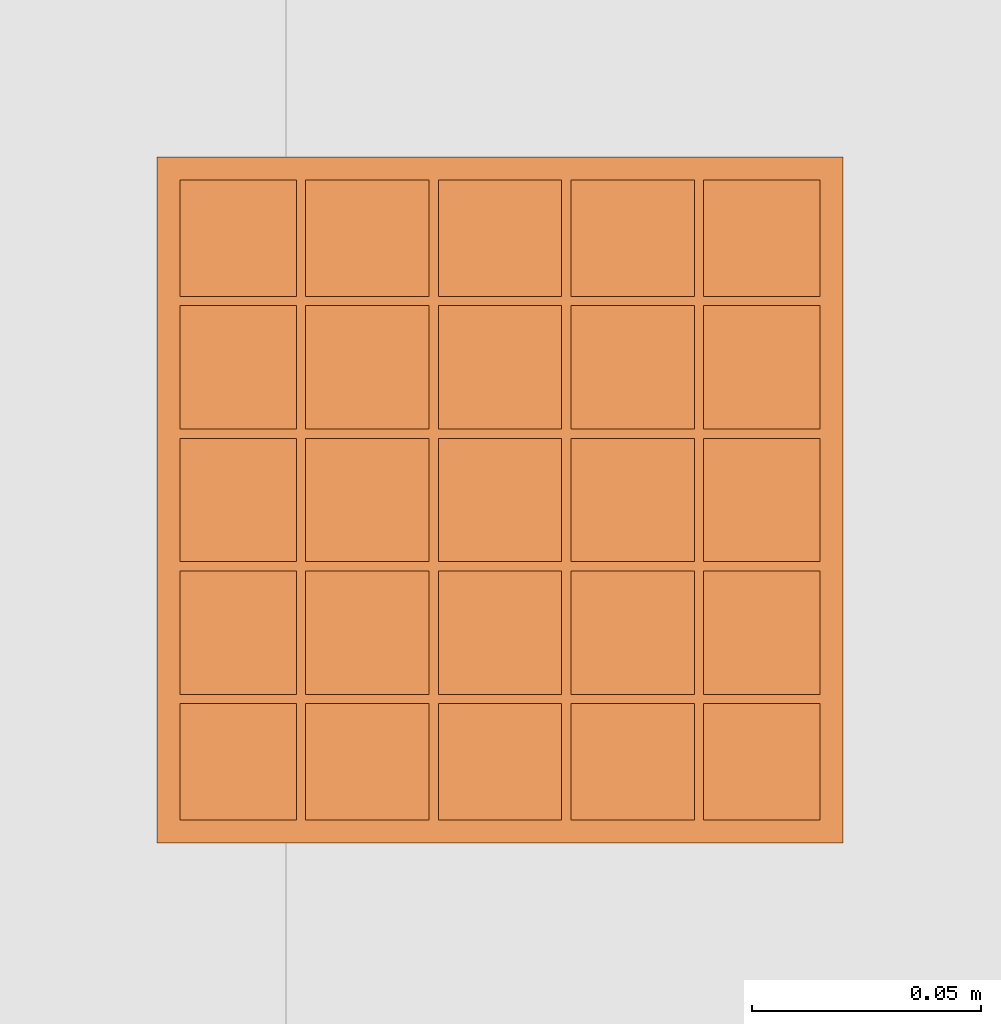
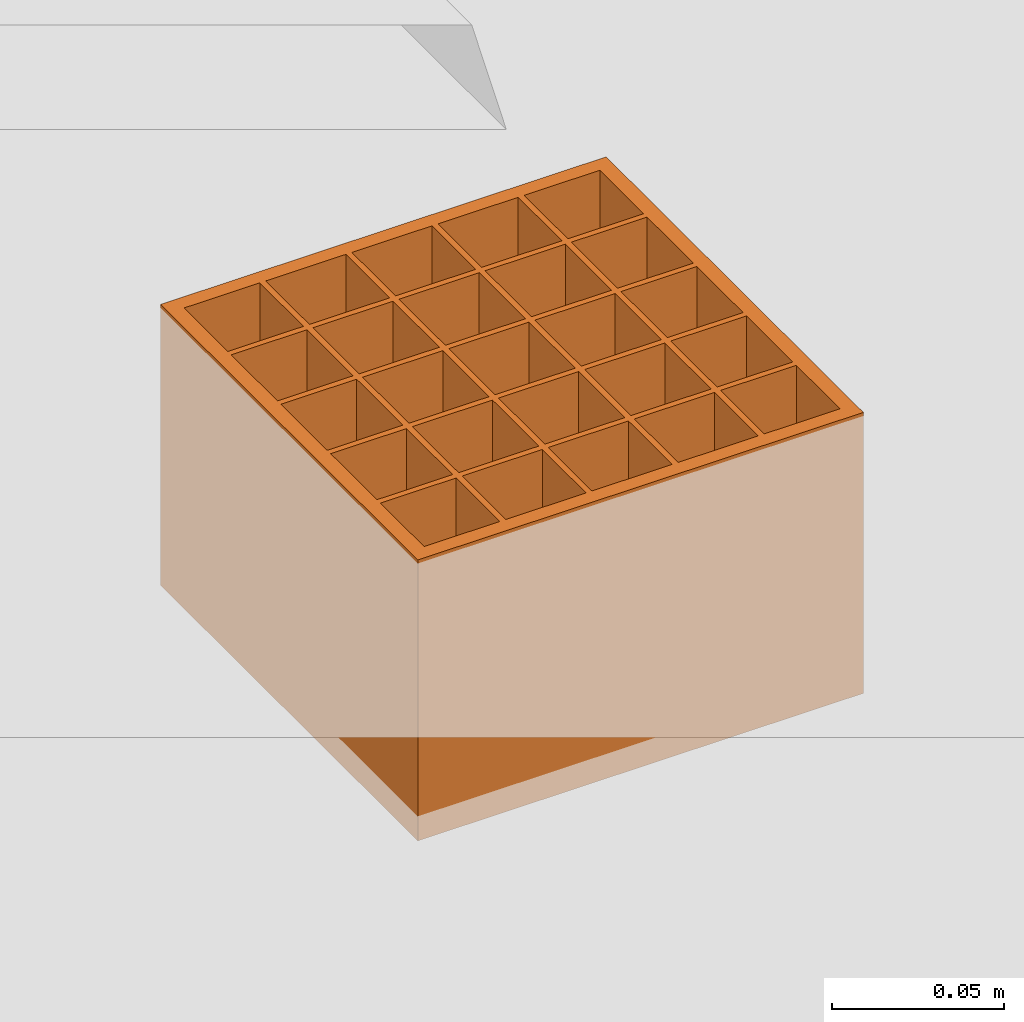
# One storey, part 85 of 100: 1 proxy.
"""IFC2X3 building model written with IfcOpenShell, lengths in millimetres."""

from ifc_helpers import new_model, entity, si_unit, converted_unit, derived_unit, money_unit, direction, frame, origin_with_axes, place, context, subcontext, project, spatial, faceted_brep, source, transform, mapped, type_object, element, save


model = new_model("IFC2X3")

# Units and contexts
model_context = context("Model", 3, precision=0.01, world=origin_with_axes(), true_north=direction((0.0, 1.0)))
body_context = subcontext(model_context, "Body", "Model", "MODEL_VIEW")
ifc_project = project(units=[si_unit("LENGTHUNIT", "METRE", prefix="MILLI"), si_unit("AREAUNIT", "SQUARE_METRE"), si_unit("VOLUMEUNIT", "CUBIC_METRE"), converted_unit("PLANEANGLEUNIT", "DEGREE", entity("IfcPlaneAngleMeasure", 0.0174532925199), si_unit("PLANEANGLEUNIT", "RADIAN"), dimensions=[0, 0, 0, 0, 0, 0, 0]), si_unit("SOLIDANGLEUNIT", "STERADIAN"), money_unit("EUR"), converted_unit("TIMEUNIT", "Year", entity("IfcTimeMeasure", 31556926.0), si_unit("TIMEUNIT", "SECOND"), dimensions=[0, 0, 1, 0, 0, 0, 0]), si_unit("MASSUNIT", "GRAM", prefix="KILO"), si_unit("THERMODYNAMICTEMPERATUREUNIT", "DEGREE_CELSIUS"), si_unit("LUMINOUSINTENSITYUNIT", "LUMEN"), si_unit("ENERGYUNIT", "JOULE", prefix="MEGA"), derived_unit("THERMALCONDUCTANCEUNIT", [(si_unit("POWERUNIT", "WATT"), 1), (si_unit("LENGTHUNIT", "METRE"), -1), (si_unit("THERMODYNAMICTEMPERATUREUNIT", "KELVIN"), -1)]), derived_unit("SPECIFICHEATCAPACITYUNIT", [(si_unit("ENERGYUNIT", "JOULE"), 1), (si_unit("MASSUNIT", "GRAM", prefix="KILO"), -1), (si_unit("THERMODYNAMICTEMPERATUREUNIT", "KELVIN"), -1)]), derived_unit("MASSDENSITYUNIT", [(si_unit("MASSUNIT", "GRAM", prefix="KILO"), 1), (si_unit("VOLUMEUNIT", "CUBIC_METRE"), -1)])], contexts=[model_context])

# Site, building, storey
site_placement = place(None, origin_with_axes())
site = spatial("IfcSite", under=ifc_project, at=site_placement, Name="Politse- ja Piirivalveameti ning Päästeameti ühishoone", CompositionType="ELEMENT")
building_placement = place(site_placement, origin_with_axes())
building = spatial("IfcBuilding", under=site, at=building_placement, Name="Politse- ja Piirivalveameti ning Päästeameti ühishoone", CompositionType="ELEMENT")
storey_placement = place(building_placement, frame((0.0, 0.0, 3800.0), z_axis=(0.0, 0.0, 1.0), x_axis=(1.0, 0.0, 0.0)))
storey = spatial("IfcBuildingStorey", under=building, at=storey_placement, Name="Teine korrus", CompositionType="ELEMENT", Elevation=3800.0)

# Proxy
building_element_proxy_type = type_object("IfcBuildingElementProxyType", Name="Grid 23", PredefinedType="NOTDEFINED")
shared_shape = source(origin_with_axes(), body_context, "Body", "Brep", [
    faceted_brep([(0.0, 0.0, 0.0), (5.0, 5.0, 0.0), (5.0, 5.0, 100.0), (0.0, 0.0, 100.0), (0.0, 150.0, 0.0), (5.0, 145.0, 0.0), (5.0, 119.5, 0.0), (5.0, 117.5, 0.0), (5.0, 90.5, 0.0), (5.0, 88.5, 0.0), (5.0, 61.5, 0.0), (5.0, 59.5, 0.0), (5.0, 32.5, 0.0), (5.0, 30.5, 0.0), (5.0, 30.5, 100.0), (5.0, 32.5, 100.0), (5.0, 59.5, 100.0), (5.0, 61.5, 100.0), (5.0, 88.5, 100.0), (5.0, 90.5, 100.0), (5.0, 117.5, 100.0), (5.0, 119.5, 100.0), (5.0, 145.0, 100.0), (0.0, 150.0, 100.0)], [[[0, 1, 2, 3]], [[0, 4, 5, 6, 7, 8, 9, 10, 11, 12, 13, 1]], [[1, 13, 14, 2]], [[3, 2, 14, 15, 16, 17, 18, 19, 20, 21, 22, 23]], [[4, 0, 3, 23]], [[5, 4, 23, 22]], [[6, 5, 22, 21]], [[7, 6, 21, 20]], [[8, 7, 20, 19]], [[9, 8, 19, 18]], [[10, 9, 18, 17]], [[11, 10, 17, 16]], [[12, 11, 16, 15]], [[13, 12, 15, 14]]]),
    faceted_brep([(150.0, 150.0, 0.0), (145.0, 145.0, 0.0), (145.0, 145.0, 100.0), (150.0, 150.0, 100.0), (150.0, 0.0, 0.0), (145.0, 5.0, 0.0), (145.0, 30.5, 0.0), (145.0, 32.5, 0.0), (145.0, 59.5, 0.0), (145.0, 61.5, 0.0), (145.0, 88.5, 0.0), (145.0, 90.5, 0.0), (145.0, 117.5, 0.0), (145.0, 119.5, 0.0), (145.0, 119.5, 100.0), (145.0, 117.5, 100.0), (145.0, 90.5, 100.0), (145.0, 88.5, 100.0), (145.0, 61.5, 100.0), (145.0, 59.5, 100.0), (145.0, 32.5, 100.0), (145.0, 30.5, 100.0), (145.0, 5.0, 100.0), (150.0, 0.0, 100.0)], [[[0, 1, 2, 3]], [[0, 4, 5, 6, 7, 8, 9, 10, 11, 12, 13, 1]], [[1, 13, 14, 2]], [[3, 2, 14, 15, 16, 17, 18, 19, 20, 21, 22, 23]], [[4, 0, 3, 23]], [[5, 4, 23, 22]], [[6, 5, 22, 21]], [[7, 6, 21, 20]], [[8, 7, 20, 19]], [[9, 8, 19, 18]], [[10, 9, 18, 17]], [[11, 10, 17, 16]], [[12, 11, 16, 15]], [[13, 12, 15, 14]]]),
    faceted_brep([(150.0, 0.0, 0.0), (145.0, 5.0, 0.0), (145.0, 5.0, 100.0), (150.0, 0.0, 100.0), (0.0, 0.0, 0.0), (5.0, 5.0, 0.0), (30.5, 5.0, 0.0), (32.5, 5.0, 0.0), (59.5, 5.0, 0.0), (61.5, 5.0, 0.0), (88.5, 5.0, 0.0), (90.5, 5.0, 0.0), (117.5, 5.0, 0.0), (119.5, 5.0, 0.0), (119.5, 5.0, 100.0), (117.5, 5.0, 100.0), (90.5, 5.0, 100.0), (88.5, 5.0, 100.0), (61.5, 5.0, 100.0), (59.5, 5.0, 100.0), (32.5, 5.0, 100.0), (30.5, 5.0, 100.0), (5.0, 5.0, 100.0), (0.0, 0.0, 100.0)], [[[0, 1, 2, 3]], [[0, 4, 5, 6, 7, 8, 9, 10, 11, 12, 13, 1]], [[1, 13, 14, 2]], [[3, 2, 14, 15, 16, 17, 18, 19, 20, 21, 22, 23]], [[4, 0, 3, 23]], [[5, 4, 23, 22]], [[6, 5, 22, 21]], [[7, 6, 21, 20]], [[8, 7, 20, 19]], [[9, 8, 19, 18]], [[10, 9, 18, 17]], [[11, 10, 17, 16]], [[12, 11, 16, 15]], [[13, 12, 15, 14]]]),
    faceted_brep([(0.0, 150.0, 0.0), (5.0, 145.0, 0.0), (5.0, 145.0, 100.0), (0.0, 150.0, 100.0), (150.0, 150.0, 0.0), (145.0, 145.0, 0.0), (119.5, 145.0, 0.0), (117.5, 145.0, 0.0), (90.5, 145.0, 0.0), (88.5, 145.0, 0.0), (61.5, 145.0, 0.0), (59.5, 145.0, 0.0), (32.5, 145.0, 0.0), (30.5, 145.0, 0.0), (30.5, 145.0, 100.0), (32.5, 145.0, 100.0), (59.5, 145.0, 100.0), (61.5, 145.0, 100.0), (88.5, 145.0, 100.0), (90.5, 145.0, 100.0), (117.5, 145.0, 100.0), (119.5, 145.0, 100.0), (145.0, 145.0, 100.0), (150.0, 150.0, 100.0)], [[[0, 1, 2, 3]], [[0, 4, 5, 6, 7, 8, 9, 10, 11, 12, 13, 1]], [[1, 13, 14, 2]], [[3, 2, 14, 15, 16, 17, 18, 19, 20, 21, 22, 23]], [[4, 0, 3, 23]], [[5, 4, 23, 22]], [[6, 5, 22, 21]], [[7, 6, 21, 20]], [[8, 7, 20, 19]], [[9, 8, 19, 18]], [[10, 9, 18, 17]], [[11, 10, 17, 16]], [[12, 11, 16, 15]], [[13, 12, 15, 14]]]),
    faceted_brep([(30.5, 5.0, 0.0), (32.5, 5.0, 0.0), (32.5, 5.0, 100.0), (30.5, 5.0, 100.0), (30.5, 30.5, 0.0), (30.5, 32.5, 0.0), (30.5, 59.5, 0.0), (30.5, 61.5, 0.0), (30.5, 88.5, 0.0), (30.5, 90.5, 0.0), (30.5, 117.5, 0.0), (30.5, 119.5, 0.0), (30.5, 145.0, 0.0), (32.5, 145.0, 0.0), (32.5, 119.5, 0.0), (32.5, 117.5, 0.0), (32.5, 90.5, 0.0), (32.5, 88.5, 0.0), (32.5, 61.5, 0.0), (32.5, 59.5, 0.0), (32.5, 32.5, 0.0), (32.5, 30.5, 0.0), (32.5, 30.5, 100.0), (32.5, 32.5, 100.0), (32.5, 59.5, 100.0), (32.5, 61.5, 100.0), (32.5, 88.5, 100.0), (32.5, 90.5, 100.0), (32.5, 117.5, 100.0), (32.5, 119.5, 100.0), (32.5, 145.0, 100.0), (30.5, 145.0, 100.0), (30.5, 119.5, 100.0), (30.5, 117.5, 100.0), (30.5, 90.5, 100.0), (30.5, 88.5, 100.0), (30.5, 61.5, 100.0), (30.5, 59.5, 100.0), (30.5, 32.5, 100.0), (30.5, 30.5, 100.0)], [[[0, 1, 2, 3]], [[0, 4, 5, 6, 7, 8, 9, 10, 11, 12, 13, 14, 15, 16, 17, 18, 19, 20, 21, 1]], [[1, 21, 22, 2]], [[3, 2, 22, 23, 24, 25, 26, 27, 28, 29, 30, 31, 32, 33, 34, 35, 36, 37, 38, 39]], [[4, 0, 3, 39]], [[5, 4, 39, 38]], [[6, 5, 38, 37]], [[7, 6, 37, 36]], [[8, 7, 36, 35]], [[9, 8, 35, 34]], [[10, 9, 34, 33]], [[11, 10, 33, 32]], [[12, 11, 32, 31]], [[13, 12, 31, 30]], [[14, 13, 30, 29]], [[15, 14, 29, 28]], [[16, 15, 28, 27]], [[17, 16, 27, 26]], [[18, 17, 26, 25]], [[19, 18, 25, 24]], [[20, 19, 24, 23]], [[21, 20, 23, 22]]]),
    faceted_brep([(59.5, 5.0, 0.0), (61.5, 5.0, 0.0), (61.5, 5.0, 100.0), (59.5, 5.0, 100.0), (59.5, 30.5, 0.0), (59.5, 32.5, 0.0), (59.5, 59.5, 0.0), (59.5, 61.5, 0.0), (59.5, 88.5, 0.0), (59.5, 90.5, 0.0), (59.5, 117.5, 0.0), (59.5, 119.5, 0.0), (59.5, 145.0, 0.0), (61.5, 145.0, 0.0), (61.5, 119.5, 0.0), (61.5, 117.5, 0.0), (61.5, 90.5, 0.0), (61.5, 88.5, 0.0), (61.5, 61.5, 0.0), (61.5, 59.5, 0.0), (61.5, 32.5, 0.0), (61.5, 30.5, 0.0), (61.5, 30.5, 100.0), (61.5, 32.5, 100.0), (61.5, 59.5, 100.0), (61.5, 61.5, 100.0), (61.5, 88.5, 100.0), (61.5, 90.5, 100.0), (61.5, 117.5, 100.0), (61.5, 119.5, 100.0), (61.5, 145.0, 100.0), (59.5, 145.0, 100.0), (59.5, 119.5, 100.0), (59.5, 117.5, 100.0), (59.5, 90.5, 100.0), (59.5, 88.5, 100.0), (59.5, 61.5, 100.0), (59.5, 59.5, 100.0), (59.5, 32.5, 100.0), (59.5, 30.5, 100.0)], [[[0, 1, 2, 3]], [[0, 4, 5, 6, 7, 8, 9, 10, 11, 12, 13, 14, 15, 16, 17, 18, 19, 20, 21, 1]], [[1, 21, 22, 2]], [[3, 2, 22, 23, 24, 25, 26, 27, 28, 29, 30, 31, 32, 33, 34, 35, 36, 37, 38, 39]], [[4, 0, 3, 39]], [[5, 4, 39, 38]], [[6, 5, 38, 37]], [[7, 6, 37, 36]], [[8, 7, 36, 35]], [[9, 8, 35, 34]], [[10, 9, 34, 33]], [[11, 10, 33, 32]], [[12, 11, 32, 31]], [[13, 12, 31, 30]], [[14, 13, 30, 29]], [[15, 14, 29, 28]], [[16, 15, 28, 27]], [[17, 16, 27, 26]], [[18, 17, 26, 25]], [[19, 18, 25, 24]], [[20, 19, 24, 23]], [[21, 20, 23, 22]]]),
    faceted_brep([(88.5, 5.0, 0.0), (90.5, 5.0, 0.0), (90.5, 5.0, 100.0), (88.5, 5.0, 100.0), (88.5, 30.5, 0.0), (88.5, 32.5, 0.0), (88.5, 59.5, 0.0), (88.5, 61.5, 0.0), (88.5, 88.5, 0.0), (88.5, 90.5, 0.0), (88.5, 117.5, 0.0), (88.5, 119.5, 0.0), (88.5, 145.0, 0.0), (90.5, 145.0, 0.0), (90.5, 119.5, 0.0), (90.5, 117.5, 0.0), (90.5, 90.5, 0.0), (90.5, 88.5, 0.0), (90.5, 61.5, 0.0), (90.5, 59.5, 0.0), (90.5, 32.5, 0.0), (90.5, 30.5, 0.0), (90.5, 30.5, 100.0), (90.5, 32.5, 100.0), (90.5, 59.5, 100.0), (90.5, 61.5, 100.0), (90.5, 88.5, 100.0), (90.5, 90.5, 100.0), (90.5, 117.5, 100.0), (90.5, 119.5, 100.0), (90.5, 145.0, 100.0), (88.5, 145.0, 100.0), (88.5, 119.5, 100.0), (88.5, 117.5, 100.0), (88.5, 90.5, 100.0), (88.5, 88.5, 100.0), (88.5, 61.5, 100.0), (88.5, 59.5, 100.0), (88.5, 32.5, 100.0), (88.5, 30.5, 100.0)], [[[0, 1, 2, 3]], [[0, 4, 5, 6, 7, 8, 9, 10, 11, 12, 13, 14, 15, 16, 17, 18, 19, 20, 21, 1]], [[1, 21, 22, 2]], [[3, 2, 22, 23, 24, 25, 26, 27, 28, 29, 30, 31, 32, 33, 34, 35, 36, 37, 38, 39]], [[4, 0, 3, 39]], [[5, 4, 39, 38]], [[6, 5, 38, 37]], [[7, 6, 37, 36]], [[8, 7, 36, 35]], [[9, 8, 35, 34]], [[10, 9, 34, 33]], [[11, 10, 33, 32]], [[12, 11, 32, 31]], [[13, 12, 31, 30]], [[14, 13, 30, 29]], [[15, 14, 29, 28]], [[16, 15, 28, 27]], [[17, 16, 27, 26]], [[18, 17, 26, 25]], [[19, 18, 25, 24]], [[20, 19, 24, 23]], [[21, 20, 23, 22]]]),
    faceted_brep([(117.5, 5.0, 0.0), (119.5, 5.0, 0.0), (119.5, 5.0, 100.0), (117.5, 5.0, 100.0), (117.5, 30.5, 0.0), (117.5, 32.5, 0.0), (117.5, 59.5, 0.0), (117.5, 61.5, 0.0), (117.5, 88.5, 0.0), (117.5, 90.5, 0.0), (117.5, 117.5, 0.0), (117.5, 119.5, 0.0), (117.5, 145.0, 0.0), (119.5, 145.0, 0.0), (119.5, 119.5, 0.0), (119.5, 117.5, 0.0), (119.5, 90.5, 0.0), (119.5, 88.5, 0.0), (119.5, 61.5, 0.0), (119.5, 59.5, 0.0), (119.5, 32.5, 0.0), (119.5, 30.5, 0.0), (119.5, 30.5, 100.0), (119.5, 32.5, 100.0), (119.5, 59.5, 100.0), (119.5, 61.5, 100.0), (119.5, 88.5, 100.0), (119.5, 90.5, 100.0), (119.5, 117.5, 100.0), (119.5, 119.5, 100.0), (119.5, 145.0, 100.0), (117.5, 145.0, 100.0), (117.5, 119.5, 100.0), (117.5, 117.5, 100.0), (117.5, 90.5, 100.0), (117.5, 88.5, 100.0), (117.5, 61.5, 100.0), (117.5, 59.5, 100.0), (117.5, 32.5, 100.0), (117.5, 30.5, 100.0)], [[[0, 1, 2, 3]], [[0, 4, 5, 6, 7, 8, 9, 10, 11, 12, 13, 14, 15, 16, 17, 18, 19, 20, 21, 1]], [[1, 21, 22, 2]], [[3, 2, 22, 23, 24, 25, 26, 27, 28, 29, 30, 31, 32, 33, 34, 35, 36, 37, 38, 39]], [[4, 0, 3, 39]], [[5, 4, 39, 38]], [[6, 5, 38, 37]], [[7, 6, 37, 36]], [[8, 7, 36, 35]], [[9, 8, 35, 34]], [[10, 9, 34, 33]], [[11, 10, 33, 32]], [[12, 11, 32, 31]], [[13, 12, 31, 30]], [[14, 13, 30, 29]], [[15, 14, 29, 28]], [[16, 15, 28, 27]], [[17, 16, 27, 26]], [[18, 17, 26, 25]], [[19, 18, 25, 24]], [[20, 19, 24, 23]], [[21, 20, 23, 22]]]),
    faceted_brep([(30.5, 30.5, 0.0), (30.5, 32.5, 0.0), (30.5, 32.5, 100.0), (30.5, 30.5, 100.0), (5.0, 30.5, 0.0), (5.0, 32.5, 0.0), (5.0, 32.5, 100.0), (5.0, 30.5, 100.0)], [[[0, 1, 2, 3]], [[0, 4, 5, 1]], [[1, 5, 6, 2]], [[3, 2, 6, 7]], [[4, 0, 3, 7]], [[5, 4, 7, 6]]]),
    faceted_brep([(30.5, 59.5, 0.0), (30.5, 61.5, 0.0), (30.5, 61.5, 100.0), (30.5, 59.5, 100.0), (5.0, 59.5, 0.0), (5.0, 61.5, 0.0), (5.0, 61.5, 100.0), (5.0, 59.5, 100.0)], [[[0, 1, 2, 3]], [[0, 4, 5, 1]], [[1, 5, 6, 2]], [[3, 2, 6, 7]], [[4, 0, 3, 7]], [[5, 4, 7, 6]]]),
    faceted_brep([(30.5, 88.5, 0.0), (30.5, 90.5, 0.0), (30.5, 90.5, 100.0), (30.5, 88.5, 100.0), (5.0, 88.5, 0.0), (5.0, 90.5, 0.0), (5.0, 90.5, 100.0), (5.0, 88.5, 100.0)], [[[0, 1, 2, 3]], [[0, 4, 5, 1]], [[1, 5, 6, 2]], [[3, 2, 6, 7]], [[4, 0, 3, 7]], [[5, 4, 7, 6]]]),
    faceted_brep([(30.5, 117.5, 0.0), (30.5, 119.5, 0.0), (30.5, 119.5, 100.0), (30.5, 117.5, 100.0), (5.0, 117.5, 0.0), (5.0, 119.5, 0.0), (5.0, 119.5, 100.0), (5.0, 117.5, 100.0)], [[[0, 1, 2, 3]], [[0, 4, 5, 1]], [[1, 5, 6, 2]], [[3, 2, 6, 7]], [[4, 0, 3, 7]], [[5, 4, 7, 6]]]),
    faceted_brep([(59.5, 30.5, 0.0), (59.5, 32.5, 0.0), (59.5, 32.5, 100.0), (59.5, 30.5, 100.0), (32.5, 30.5, 0.0), (32.5, 32.5, 0.0), (32.5, 32.5, 100.0), (32.5, 30.5, 100.0)], [[[0, 1, 2, 3]], [[0, 4, 5, 1]], [[1, 5, 6, 2]], [[3, 2, 6, 7]], [[4, 0, 3, 7]], [[5, 4, 7, 6]]]),
    faceted_brep([(59.5, 59.5, 0.0), (59.5, 61.5, 0.0), (59.5, 61.5, 100.0), (59.5, 59.5, 100.0), (32.5, 59.5, 0.0), (32.5, 61.5, 0.0), (32.5, 61.5, 100.0), (32.5, 59.5, 100.0)], [[[0, 1, 2, 3]], [[0, 4, 5, 1]], [[1, 5, 6, 2]], [[3, 2, 6, 7]], [[4, 0, 3, 7]], [[5, 4, 7, 6]]]),
    faceted_brep([(59.5, 88.5, 0.0), (59.5, 90.5, 0.0), (59.5, 90.5, 100.0), (59.5, 88.5, 100.0), (32.5, 88.5, 0.0), (32.5, 90.5, 0.0), (32.5, 90.5, 100.0), (32.5, 88.5, 100.0)], [[[0, 1, 2, 3]], [[0, 4, 5, 1]], [[1, 5, 6, 2]], [[3, 2, 6, 7]], [[4, 0, 3, 7]], [[5, 4, 7, 6]]]),
    faceted_brep([(59.5, 117.5, 0.0), (59.5, 119.5, 0.0), (59.5, 119.5, 100.0), (59.5, 117.5, 100.0), (32.5, 117.5, 0.0), (32.5, 119.5, 0.0), (32.5, 119.5, 100.0), (32.5, 117.5, 100.0)], [[[0, 1, 2, 3]], [[0, 4, 5, 1]], [[1, 5, 6, 2]], [[3, 2, 6, 7]], [[4, 0, 3, 7]], [[5, 4, 7, 6]]]),
    faceted_brep([(88.5, 30.5, 0.0), (88.5, 32.5, 0.0), (88.5, 32.5, 100.0), (88.5, 30.5, 100.0), (61.5, 30.5, 0.0), (61.5, 32.5, 0.0), (61.5, 32.5, 100.0), (61.5, 30.5, 100.0)], [[[0, 1, 2, 3]], [[0, 4, 5, 1]], [[1, 5, 6, 2]], [[3, 2, 6, 7]], [[4, 0, 3, 7]], [[5, 4, 7, 6]]]),
    faceted_brep([(88.5, 59.5, 0.0), (88.5, 61.5, 0.0), (88.5, 61.5, 100.0), (88.5, 59.5, 100.0), (61.5, 59.5, 0.0), (61.5, 61.5, 0.0), (61.5, 61.5, 100.0), (61.5, 59.5, 100.0)], [[[0, 1, 2, 3]], [[0, 4, 5, 1]], [[1, 5, 6, 2]], [[3, 2, 6, 7]], [[4, 0, 3, 7]], [[5, 4, 7, 6]]]),
    faceted_brep([(88.5, 88.5, 0.0), (88.5, 90.5, 0.0), (88.5, 90.5, 100.0), (88.5, 88.5, 100.0), (61.5, 88.5, 0.0), (61.5, 90.5, 0.0), (61.5, 90.5, 100.0), (61.5, 88.5, 100.0)], [[[0, 1, 2, 3]], [[0, 4, 5, 1]], [[1, 5, 6, 2]], [[3, 2, 6, 7]], [[4, 0, 3, 7]], [[5, 4, 7, 6]]]),
    faceted_brep([(88.5, 117.5, 0.0), (88.5, 119.5, 0.0), (88.5, 119.5, 100.0), (88.5, 117.5, 100.0), (61.5, 117.5, 0.0), (61.5, 119.5, 0.0), (61.5, 119.5, 100.0), (61.5, 117.5, 100.0)], [[[0, 1, 2, 3]], [[0, 4, 5, 1]], [[1, 5, 6, 2]], [[3, 2, 6, 7]], [[4, 0, 3, 7]], [[5, 4, 7, 6]]]),
    faceted_brep([(117.5, 30.5, 0.0), (117.5, 32.5, 0.0), (117.5, 32.5, 100.0), (117.5, 30.5, 100.0), (90.5, 30.5, 0.0), (90.5, 32.5, 0.0), (90.5, 32.5, 100.0), (90.5, 30.5, 100.0)], [[[0, 1, 2, 3]], [[0, 4, 5, 1]], [[1, 5, 6, 2]], [[3, 2, 6, 7]], [[4, 0, 3, 7]], [[5, 4, 7, 6]]]),
    faceted_brep([(117.5, 59.5, 0.0), (117.5, 61.5, 0.0), (117.5, 61.5, 100.0), (117.5, 59.5, 100.0), (90.5, 59.5, 0.0), (90.5, 61.5, 0.0), (90.5, 61.5, 100.0), (90.5, 59.5, 100.0)], [[[0, 1, 2, 3]], [[0, 4, 5, 1]], [[1, 5, 6, 2]], [[3, 2, 6, 7]], [[4, 0, 3, 7]], [[5, 4, 7, 6]]]),
    faceted_brep([(117.5, 88.5, 0.0), (117.5, 90.5, 0.0), (117.5, 90.5, 100.0), (117.5, 88.5, 100.0), (90.5, 88.5, 0.0), (90.5, 90.5, 0.0), (90.5, 90.5, 100.0), (90.5, 88.5, 100.0)], [[[0, 1, 2, 3]], [[0, 4, 5, 1]], [[1, 5, 6, 2]], [[3, 2, 6, 7]], [[4, 0, 3, 7]], [[5, 4, 7, 6]]]),
    faceted_brep([(117.5, 117.5, 0.0), (117.5, 119.5, 0.0), (117.5, 119.5, 100.0), (117.5, 117.5, 100.0), (90.5, 117.5, 0.0), (90.5, 119.5, 0.0), (90.5, 119.5, 100.0), (90.5, 117.5, 100.0)], [[[0, 1, 2, 3]], [[0, 4, 5, 1]], [[1, 5, 6, 2]], [[3, 2, 6, 7]], [[4, 0, 3, 7]], [[5, 4, 7, 6]]]),
    faceted_brep([(145.0, 30.5, 0.0), (145.0, 32.5, 0.0), (145.0, 32.5, 100.0), (145.0, 30.5, 100.0), (119.5, 30.5, 0.0), (119.5, 32.5, 0.0), (119.5, 32.5, 100.0), (119.5, 30.5, 100.0)], [[[0, 1, 2, 3]], [[0, 4, 5, 1]], [[1, 5, 6, 2]], [[3, 2, 6, 7]], [[4, 0, 3, 7]], [[5, 4, 7, 6]]]),
    faceted_brep([(145.0, 59.5, 0.0), (145.0, 61.5, 0.0), (145.0, 61.5, 100.0), (145.0, 59.5, 100.0), (119.5, 59.5, 0.0), (119.5, 61.5, 0.0), (119.5, 61.5, 100.0), (119.5, 59.5, 100.0)], [[[0, 1, 2, 3]], [[0, 4, 5, 1]], [[1, 5, 6, 2]], [[3, 2, 6, 7]], [[4, 0, 3, 7]], [[5, 4, 7, 6]]]),
    faceted_brep([(145.0, 88.5, 0.0), (145.0, 90.5, 0.0), (145.0, 90.5, 100.0), (145.0, 88.5, 100.0), (119.5, 88.5, 0.0), (119.5, 90.5, 0.0), (119.5, 90.5, 100.0), (119.5, 88.5, 100.0)], [[[0, 1, 2, 3]], [[0, 4, 5, 1]], [[1, 5, 6, 2]], [[3, 2, 6, 7]], [[4, 0, 3, 7]], [[5, 4, 7, 6]]]),
    faceted_brep([(145.0, 117.5, 0.0), (145.0, 119.5, 0.0), (145.0, 119.5, 100.0), (145.0, 117.5, 100.0), (119.5, 117.5, 0.0), (119.5, 119.5, 0.0), (119.5, 119.5, 100.0), (119.5, 117.5, 100.0)], [[[0, 1, 2, 3]], [[0, 4, 5, 1]], [[1, 5, 6, 2]], [[3, 2, 6, 7]], [[4, 0, 3, 7]], [[5, 4, 7, 6]]]),
    faceted_brep([(5.0, 5.0, 43.65), (30.5, 5.0, 43.65), (30.5, 5.0, 56.35), (5.0, 5.0, 56.35), (5.0, 30.5, 43.65), (30.5, 30.5, 43.65), (30.5, 30.5, 56.35), (5.0, 30.5, 56.35)], [[[0, 1, 2, 3]], [[0, 4, 5, 1]], [[1, 5, 6, 2]], [[3, 2, 6, 7]], [[4, 0, 3, 7]], [[5, 4, 7, 6]]]),
    faceted_brep([(5.0, 32.5, 43.65), (30.5, 32.5, 43.65), (30.5, 32.5, 56.35), (5.0, 32.5, 56.35), (5.0, 59.5, 43.65), (30.5, 59.5, 43.65), (30.5, 59.5, 56.35), (5.0, 59.5, 56.35)], [[[0, 1, 2, 3]], [[0, 4, 5, 1]], [[1, 5, 6, 2]], [[3, 2, 6, 7]], [[4, 0, 3, 7]], [[5, 4, 7, 6]]]),
    faceted_brep([(5.0, 61.5, 43.65), (30.5, 61.5, 43.65), (30.5, 61.5, 56.35), (5.0, 61.5, 56.35), (5.0, 88.5, 43.65), (30.5, 88.5, 43.65), (30.5, 88.5, 56.35), (5.0, 88.5, 56.35)], [[[0, 1, 2, 3]], [[0, 4, 5, 1]], [[1, 5, 6, 2]], [[3, 2, 6, 7]], [[4, 0, 3, 7]], [[5, 4, 7, 6]]]),
    faceted_brep([(5.0, 90.5, 43.65), (30.5, 90.5, 43.65), (30.5, 90.5, 56.35), (5.0, 90.5, 56.35), (5.0, 117.5, 43.65), (30.5, 117.5, 43.65), (30.5, 117.5, 56.35), (5.0, 117.5, 56.35)], [[[0, 1, 2, 3]], [[0, 4, 5, 1]], [[1, 5, 6, 2]], [[3, 2, 6, 7]], [[4, 0, 3, 7]], [[5, 4, 7, 6]]]),
    faceted_brep([(5.0, 119.5, 43.65), (30.5, 119.5, 43.65), (30.5, 119.5, 56.35), (5.0, 119.5, 56.35), (5.0, 145.0, 43.65), (30.5, 145.0, 43.65), (30.5, 145.0, 56.35), (5.0, 145.0, 56.35)], [[[0, 1, 2, 3]], [[0, 4, 5, 1]], [[1, 5, 6, 2]], [[3, 2, 6, 7]], [[4, 0, 3, 7]], [[5, 4, 7, 6]]]),
    faceted_brep([(32.5, 5.0, 43.65), (59.5, 5.0, 43.65), (59.5, 5.0, 56.35), (32.5, 5.0, 56.35), (32.5, 30.5, 43.65), (59.5, 30.5, 43.65), (59.5, 30.5, 56.35), (32.5, 30.5, 56.35)], [[[0, 1, 2, 3]], [[0, 4, 5, 1]], [[1, 5, 6, 2]], [[3, 2, 6, 7]], [[4, 0, 3, 7]], [[5, 4, 7, 6]]]),
    faceted_brep([(32.5, 32.5, 43.65), (59.5, 32.5, 43.65), (59.5, 32.5, 56.35), (32.5, 32.5, 56.35), (32.5, 59.5, 43.65), (59.5, 59.5, 43.65), (59.5, 59.5, 56.35), (32.5, 59.5, 56.35)], [[[0, 1, 2, 3]], [[0, 4, 5, 1]], [[1, 5, 6, 2]], [[3, 2, 6, 7]], [[4, 0, 3, 7]], [[5, 4, 7, 6]]]),
    faceted_brep([(32.5, 61.5, 43.65), (59.5, 61.5, 43.65), (59.5, 61.5, 56.35), (32.5, 61.5, 56.35), (32.5, 88.5, 43.65), (59.5, 88.5, 43.65), (59.5, 88.5, 56.35), (32.5, 88.5, 56.35)], [[[0, 1, 2, 3]], [[0, 4, 5, 1]], [[1, 5, 6, 2]], [[3, 2, 6, 7]], [[4, 0, 3, 7]], [[5, 4, 7, 6]]]),
    faceted_brep([(32.5, 90.5, 43.65), (59.5, 90.5, 43.65), (59.5, 90.5, 56.35), (32.5, 90.5, 56.35), (32.5, 117.5, 43.65), (59.5, 117.5, 43.65), (59.5, 117.5, 56.35), (32.5, 117.5, 56.35)], [[[0, 1, 2, 3]], [[0, 4, 5, 1]], [[1, 5, 6, 2]], [[3, 2, 6, 7]], [[4, 0, 3, 7]], [[5, 4, 7, 6]]]),
    faceted_brep([(32.5, 119.5, 43.65), (59.5, 119.5, 43.65), (59.5, 119.5, 56.35), (32.5, 119.5, 56.35), (32.5, 145.0, 43.65), (59.5, 145.0, 43.65), (59.5, 145.0, 56.35), (32.5, 145.0, 56.35)], [[[0, 1, 2, 3]], [[0, 4, 5, 1]], [[1, 5, 6, 2]], [[3, 2, 6, 7]], [[4, 0, 3, 7]], [[5, 4, 7, 6]]]),
    faceted_brep([(61.5, 5.0, 43.65), (88.5, 5.0, 43.65), (88.5, 5.0, 56.35), (61.5, 5.0, 56.35), (61.5, 30.5, 43.65), (88.5, 30.5, 43.65), (88.5, 30.5, 56.35), (61.5, 30.5, 56.35)], [[[0, 1, 2, 3]], [[0, 4, 5, 1]], [[1, 5, 6, 2]], [[3, 2, 6, 7]], [[4, 0, 3, 7]], [[5, 4, 7, 6]]]),
    faceted_brep([(61.5, 32.5, 43.65), (88.5, 32.5, 43.65), (88.5, 32.5, 56.35), (61.5, 32.5, 56.35), (61.5, 59.5, 43.65), (88.5, 59.5, 43.65), (88.5, 59.5, 56.35), (61.5, 59.5, 56.35)], [[[0, 1, 2, 3]], [[0, 4, 5, 1]], [[1, 5, 6, 2]], [[3, 2, 6, 7]], [[4, 0, 3, 7]], [[5, 4, 7, 6]]]),
    faceted_brep([(61.5, 61.5, 43.65), (88.5, 61.5, 43.65), (88.5, 61.5, 56.35), (61.5, 61.5, 56.35), (61.5, 88.5, 43.65), (88.5, 88.5, 43.65), (88.5, 88.5, 56.35), (61.5, 88.5, 56.35)], [[[0, 1, 2, 3]], [[0, 4, 5, 1]], [[1, 5, 6, 2]], [[3, 2, 6, 7]], [[4, 0, 3, 7]], [[5, 4, 7, 6]]]),
    faceted_brep([(61.5, 90.5, 43.65), (88.5, 90.5, 43.65), (88.5, 90.5, 56.35), (61.5, 90.5, 56.35), (61.5, 117.5, 43.65), (88.5, 117.5, 43.65), (88.5, 117.5, 56.35), (61.5, 117.5, 56.35)], [[[0, 1, 2, 3]], [[0, 4, 5, 1]], [[1, 5, 6, 2]], [[3, 2, 6, 7]], [[4, 0, 3, 7]], [[5, 4, 7, 6]]]),
    faceted_brep([(61.5, 119.5, 43.65), (88.5, 119.5, 43.65), (88.5, 119.5, 56.35), (61.5, 119.5, 56.35), (61.5, 145.0, 43.65), (88.5, 145.0, 43.65), (88.5, 145.0, 56.35), (61.5, 145.0, 56.35)], [[[0, 1, 2, 3]], [[0, 4, 5, 1]], [[1, 5, 6, 2]], [[3, 2, 6, 7]], [[4, 0, 3, 7]], [[5, 4, 7, 6]]]),
    faceted_brep([(90.5, 5.0, 43.65), (117.5, 5.0, 43.65), (117.5, 5.0, 56.35), (90.5, 5.0, 56.35), (90.5, 30.5, 43.65), (117.5, 30.5, 43.65), (117.5, 30.5, 56.35), (90.5, 30.5, 56.35)], [[[0, 1, 2, 3]], [[0, 4, 5, 1]], [[1, 5, 6, 2]], [[3, 2, 6, 7]], [[4, 0, 3, 7]], [[5, 4, 7, 6]]]),
    faceted_brep([(90.5, 32.5, 43.65), (117.5, 32.5, 43.65), (117.5, 32.5, 56.35), (90.5, 32.5, 56.35), (90.5, 59.5, 43.65), (117.5, 59.5, 43.65), (117.5, 59.5, 56.35), (90.5, 59.5, 56.35)], [[[0, 1, 2, 3]], [[0, 4, 5, 1]], [[1, 5, 6, 2]], [[3, 2, 6, 7]], [[4, 0, 3, 7]], [[5, 4, 7, 6]]]),
    faceted_brep([(90.5, 61.5, 43.65), (117.5, 61.5, 43.65), (117.5, 61.5, 56.35), (90.5, 61.5, 56.35), (90.5, 88.5, 43.65), (117.5, 88.5, 43.65), (117.5, 88.5, 56.35), (90.5, 88.5, 56.35)], [[[0, 1, 2, 3]], [[0, 4, 5, 1]], [[1, 5, 6, 2]], [[3, 2, 6, 7]], [[4, 0, 3, 7]], [[5, 4, 7, 6]]]),
    faceted_brep([(90.5, 90.5, 43.65), (117.5, 90.5, 43.65), (117.5, 90.5, 56.35), (90.5, 90.5, 56.35), (90.5, 117.5, 43.65), (117.5, 117.5, 43.65), (117.5, 117.5, 56.35), (90.5, 117.5, 56.35)], [[[0, 1, 2, 3]], [[0, 4, 5, 1]], [[1, 5, 6, 2]], [[3, 2, 6, 7]], [[4, 0, 3, 7]], [[5, 4, 7, 6]]]),
    faceted_brep([(90.5, 119.5, 43.65), (117.5, 119.5, 43.65), (117.5, 119.5, 56.35), (90.5, 119.5, 56.35), (90.5, 145.0, 43.65), (117.5, 145.0, 43.65), (117.5, 145.0, 56.35), (90.5, 145.0, 56.35)], [[[0, 1, 2, 3]], [[0, 4, 5, 1]], [[1, 5, 6, 2]], [[3, 2, 6, 7]], [[4, 0, 3, 7]], [[5, 4, 7, 6]]]),
    faceted_brep([(119.5, 5.0, 43.65), (145.0, 5.0, 43.65), (145.0, 5.0, 56.35), (119.5, 5.0, 56.35), (119.5, 30.5, 43.65), (145.0, 30.5, 43.65), (145.0, 30.5, 56.35), (119.5, 30.5, 56.35)], [[[0, 1, 2, 3]], [[0, 4, 5, 1]], [[1, 5, 6, 2]], [[3, 2, 6, 7]], [[4, 0, 3, 7]], [[5, 4, 7, 6]]]),
    faceted_brep([(119.5, 32.5, 43.65), (145.0, 32.5, 43.65), (145.0, 32.5, 56.35), (119.5, 32.5, 56.35), (119.5, 59.5, 43.65), (145.0, 59.5, 43.65), (145.0, 59.5, 56.35), (119.5, 59.5, 56.35)], [[[0, 1, 2, 3]], [[0, 4, 5, 1]], [[1, 5, 6, 2]], [[3, 2, 6, 7]], [[4, 0, 3, 7]], [[5, 4, 7, 6]]]),
    faceted_brep([(119.5, 61.5, 43.65), (145.0, 61.5, 43.65), (145.0, 61.5, 56.35), (119.5, 61.5, 56.35), (119.5, 88.5, 43.65), (145.0, 88.5, 43.65), (145.0, 88.5, 56.35), (119.5, 88.5, 56.35)], [[[0, 1, 2, 3]], [[0, 4, 5, 1]], [[1, 5, 6, 2]], [[3, 2, 6, 7]], [[4, 0, 3, 7]], [[5, 4, 7, 6]]]),
    faceted_brep([(119.5, 90.5, 43.65), (145.0, 90.5, 43.65), (145.0, 90.5, 56.35), (119.5, 90.5, 56.35), (119.5, 117.5, 43.65), (145.0, 117.5, 43.65), (145.0, 117.5, 56.35), (119.5, 117.5, 56.35)], [[[0, 1, 2, 3]], [[0, 4, 5, 1]], [[1, 5, 6, 2]], [[3, 2, 6, 7]], [[4, 0, 3, 7]], [[5, 4, 7, 6]]]),
    faceted_brep([(119.5, 119.5, 43.65), (145.0, 119.5, 43.65), (145.0, 119.5, 56.35), (119.5, 119.5, 56.35), (119.5, 145.0, 43.65), (145.0, 145.0, 43.65), (145.0, 145.0, 56.35), (119.5, 145.0, 56.35)], [[[0, 1, 2, 3]], [[0, 4, 5, 1]], [[1, 5, 6, 2]], [[3, 2, 6, 7]], [[4, 0, 3, 7]], [[5, 4, 7, 6]]]),
])
proxy_placement = place(storey_placement, frame((44340.2336732, 18919.9083055, -100.0), z_axis=(0.0, 0.0, 1.0), x_axis=(1.0, 0.0, 0.0)))
element("IfcBuildingElementProxy", 1, at=proxy_placement, inside=storey, type_object=building_element_proxy_type, Name="Trapp (210)", context=body_context, shape_type="MappedRepresentation", body=[
    mapped(shared_shape, transform((0.0, 0.0, 0.0))),
])

save(model, "model.ifc")
